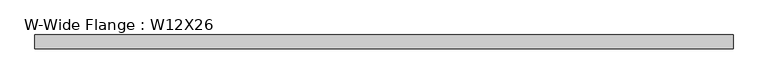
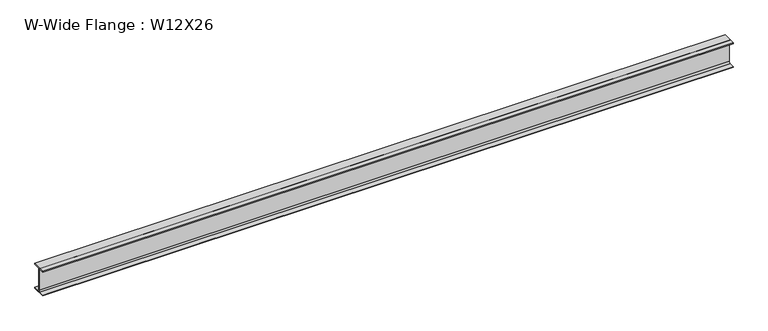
"""IFC4 building model written with IfcOpenShell, lengths in millimetres: beam geometry, W-Wide Flange : W12X26."""

from ifc_helpers import new_model, si_unit, point, frame, frame_2d, origin, place, context, project, spatial, polyline, circle_curve, trimmed, segment, composite_curve, outline, extrude, source, transform, mapped, element, save


def w_wide_flange_w12x26_e4c531ea(model_context):
    return source(origin(), model_context, "Body", "SweptSolid", [
        extrude(outline(composite_curve([segment(polyline([(-82.423, -145.288), (-20.2565, -145.288)]), True, "CONTINUOUS"), segment(trimmed(circle_curve(frame_2d((-20.2565, -127.9525)), 17.3355), [point((-20.2565, -145.288))], [point((-2.921, -127.9525))], True, "CARTESIAN"), True, "CONTINUOUS"), segment(polyline([(-2.921, -127.9525), (-2.921, 127.9525)]), True, "CONTINUOUS"), segment(trimmed(circle_curve(frame_2d((-20.2565, 127.9525)), 17.3355), [point((-2.921, 127.9525))], [point((-20.2565, 145.288))], True, "CARTESIAN"), True, "CONTINUOUS"), segment(polyline([(-20.2565, 145.288), (-82.423, 145.288), (-82.423, 154.94), (82.423, 154.94), (82.423, 145.288), (20.2565, 145.288)]), True, "CONTINUOUS"), segment(trimmed(circle_curve(frame_2d((20.2565, 127.9525)), 17.3355), [point((20.2565, 145.288))], [point((2.921, 127.9525))], True, "CARTESIAN"), True, "CONTINUOUS"), segment(polyline([(2.921, 127.9525), (2.921, -127.9525)]), True, "CONTINUOUS"), segment(trimmed(circle_curve(frame_2d((20.2565, -127.9525)), 17.3355), [point((2.921, -127.9525))], [point((20.2565, -145.288))], True, "CARTESIAN"), True, "CONTINUOUS"), segment(polyline([(20.2565, -145.288), (82.423, -145.288), (82.423, -154.94), (-82.423, -154.94), (-82.423, -145.288)]), True, "CONTINUOUS")], self_intersect=False)), frame((-4343.4, 0.0, 0.0), z_axis=(1.0, 0.0, 0.0), x_axis=(0.0, 1.0, 0.0)), (0.0, 0.0, 1.0), 8229.6),
    ])


if __name__ == "__main__":
    model = new_model("IFC4")
    model_context = context("Model", 3, world=origin())
    ifc_project = project(units=[si_unit("LENGTHUNIT", "METRE", prefix="MILLI")], contexts=[model_context])
    site = spatial("IfcSite", under=ifc_project)
    building = spatial("IfcBuilding", under=site)
    placement = place(None, origin())
    w_wide_flange_w12x26_shape = w_wide_flange_w12x26_e4c531ea(model_context)
    element("IfcBeam", 1, ObjectType="W-Wide Flange : W12X26", at=placement, inside=building, context=model_context, shape_type="MappedRepresentation", body=[
        mapped(w_wide_flange_w12x26_shape, transform((0.0, 0.0, 0.0), x_axis=(1.0, 0.0, 0.0), y_axis=(0.0, 1.0, 0.0), z_axis=(0.0, 0.0, 1.0))),
    ])
    save(model, "model.ifc")
